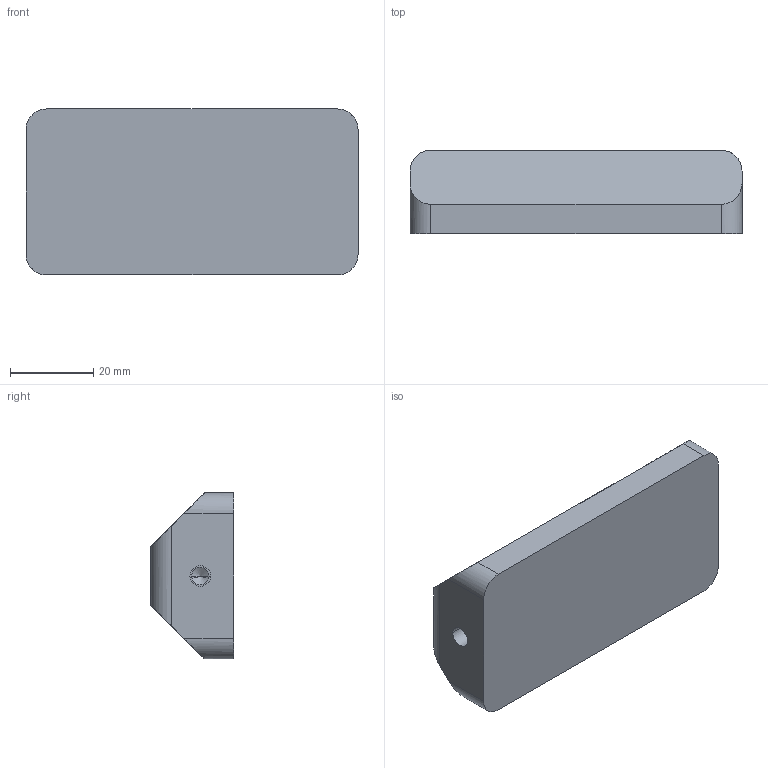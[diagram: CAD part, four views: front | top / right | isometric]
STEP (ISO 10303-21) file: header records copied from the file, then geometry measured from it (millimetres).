
FILE_DESCRIPTION (( 'STEP AP203' ), '1' );
FILE_NAME ('0003489 EZ-0072 40x80.STEP', '2022-01-31T16:30:00', ( '' ), ( '' ), 'SwSTEP 2.0', 'SolidWorks 2021', '' );
FILE_SCHEMA (( 'CONFIG_CONTROL_DESIGN' ));
Length unit declared in the file: millimetre
Products named in the file (1): 0003489 EZ-0072 40x80
Bounding box: 80 x 20 x 40 mm (x, y, z)
Volume: 49159 mm3; surface area: 10680.8 mm2
Topology: 4 solids, 4 shells, 102 faces, 232 edges, 140 vertices
Faces by surface type: cylinder 38, plane 34, cone 20, torus 8, sphere 2
Entity records: 2859 total; most frequent: DIRECTION 518, CARTESIAN_POINT 487, ORIENTED_EDGE 440, EDGE_CURVE 220, AXIS2_PLACEMENT_3D 203, VERTEX_POINT 140, EDGE_LOOP 118, VECTOR 112
